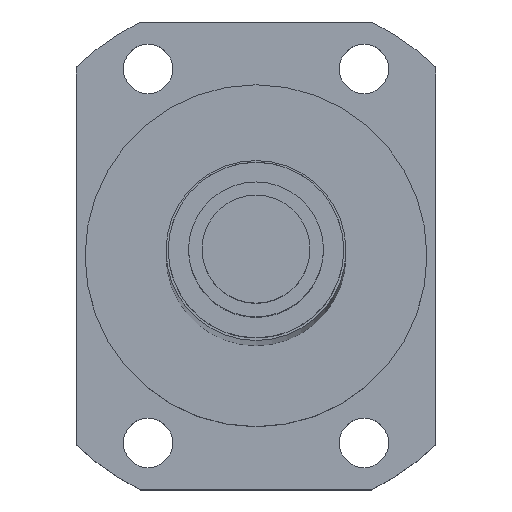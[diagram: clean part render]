
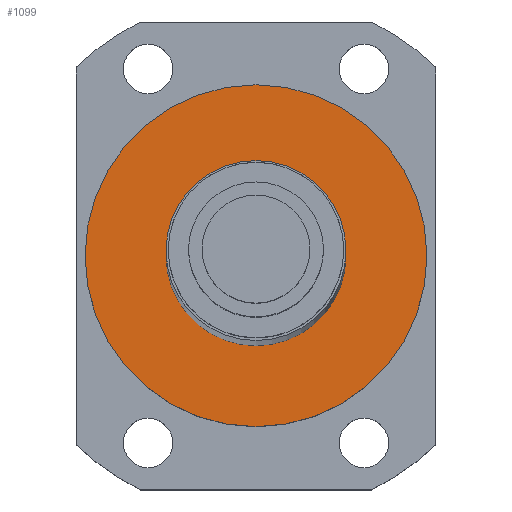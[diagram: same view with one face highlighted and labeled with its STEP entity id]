
A CAD part, top view. The second image highlights one B-rep face of the part: STEP entity #1099.
In plain terms, the highlighted planar face has unit normal (0, 0, 1).
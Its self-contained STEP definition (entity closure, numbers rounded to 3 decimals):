
#30=CARTESIAN_POINT('',(0.,0.,20.5));
#31=DIRECTION('',(0.,0.,1.));
#32=DIRECTION('',(1.,0.,0.));
#33=AXIS2_PLACEMENT_3D('',#30,#31,#32);
#269=CARTESIAN_POINT('',(0.,0.,20.5));
#270=DIRECTION('',(0.,0.,1.));
#271=DIRECTION('',(1.,0.,0.));
#272=AXIS2_PLACEMENT_3D('',#269,#270,#271);
#274=CARTESIAN_POINT('',(0.,0.,20.5));
#275=DIRECTION('',(0.,0.,1.));
#276=DIRECTION('',(-1.,0.,0.));
#277=AXIS2_PLACEMENT_3D('',#274,#275,#276);
#288=CARTESIAN_POINT('',(0.,0.,20.5));
#289=DIRECTION('',(0.,0.,1.));
#290=DIRECTION('',(-1.,0.,0.));
#291=AXIS2_PLACEMENT_3D('',#288,#289,#290);
#669=CARTESIAN_POINT('',(19.,0.,20.5));
#670=CARTESIAN_POINT('',(-19.,0.,20.5));
#671=VERTEX_POINT('',#669);
#672=VERTEX_POINT('',#670);
#677=CARTESIAN_POINT('',(10.,0.,20.5));
#678=CARTESIAN_POINT('',(-10.,0.,20.5));
#679=VERTEX_POINT('',#677);
#680=VERTEX_POINT('',#678);
#1085=CARTESIAN_POINT('',(0.,0.,20.5));
#1086=DIRECTION('',(0.,0.,1.));
#1087=DIRECTION('',(1.,0.,0.));
#1088=AXIS2_PLACEMENT_3D('',#1085,#1086,#1087);
#1089=PLANE('',#1088);
#1090=ORIENTED_EDGE('',*,*,#843,.F.);
#1091=ORIENTED_EDGE('',*,*,#1079,.F.);
#1092=EDGE_LOOP('',(#1090,#1091));
#1093=FACE_OUTER_BOUND('',#1092,.F.);
#1094=ORIENTED_EDGE('',*,*,#791,.T.);
#1096=ORIENTED_EDGE('',*,*,#1095,.T.);
#1097=EDGE_LOOP('',(#1094,#1096));
#1098=FACE_BOUND('',#1097,.F.);
#1099=ADVANCED_FACE('',(#1093,#1098),#1089,.T.);
#34=CIRCLE('',#33,10.);
#273=CIRCLE('',#272,19.);
#278=CIRCLE('',#277,19.);
#292=CIRCLE('',#291,10.);
#791=EDGE_CURVE('',#679,#680,#34,.T.);
#843=EDGE_CURVE('',#671,#672,#273,.T.);
#1079=EDGE_CURVE('',#672,#671,#278,.T.);
#1095=EDGE_CURVE('',#680,#679,#292,.T.);
